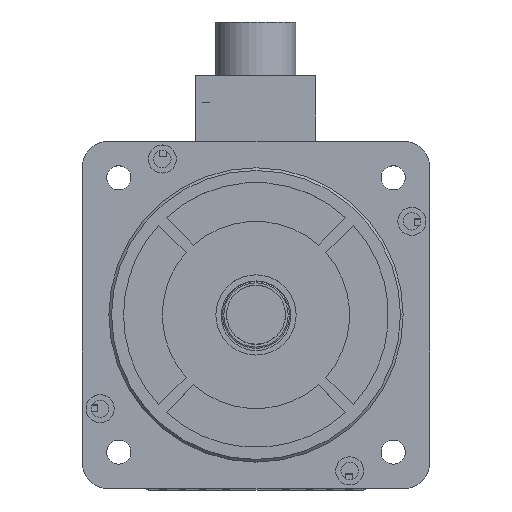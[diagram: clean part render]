
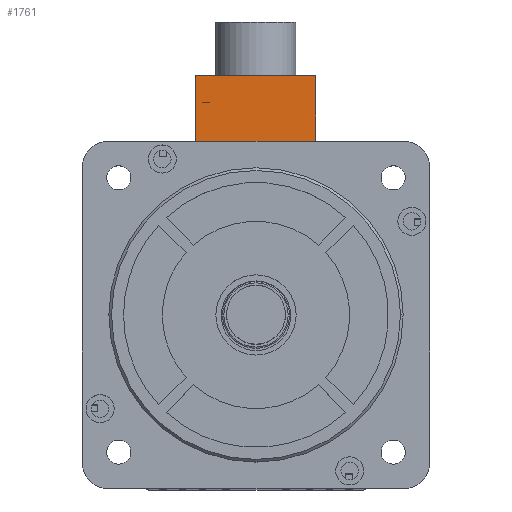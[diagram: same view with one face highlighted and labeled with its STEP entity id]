
A CAD part, top view. The second image highlights one B-rep face of the part: STEP entity #1761.
In plain terms, the highlighted planar face has unit normal (0, 0, 1) as drawn and (0, -1, 0) by its records, which use the part's own axes.
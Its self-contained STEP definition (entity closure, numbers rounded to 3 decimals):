
#702 = LINE ( 'NONE', #14004, #22727 ) ;
#1761 = ADVANCED_FACE ( 'NONE', ( #19603 ), #12502, .T. ) ;
#2332 = CARTESIAN_POINT ( 'NONE',  ( 0., 0., 0. ) ) ;
#3019 = VERTEX_POINT ( 'NONE', #20811 ) ;
#3467 = EDGE_CURVE ( 'NONE', #11822, #18891, #23481, .T. ) ;
#3577 = DIRECTION ( 'NONE',  ( 0., 0., 1. ) ) ;
#3975 = DIRECTION ( 'NONE',  ( 0., 0., -1. ) ) ;
#5056 = EDGE_CURVE ( 'NONE', #3019, #11336, #702, .T. ) ;
#5241 = CARTESIAN_POINT ( 'NONE',  ( 45., 0., -25. ) ) ;
#5478 = EDGE_CURVE ( 'NONE', #11336, #18891, #13134, .T. ) ;
#5660 = LINE ( 'NONE', #15861, #21268 ) ;
#6099 = CARTESIAN_POINT ( 'NONE',  ( 45., 0., 0. ) ) ;
#6176 = DIRECTION ( 'NONE',  ( 0., -1., 0. ) ) ;
#7909 = AXIS2_PLACEMENT_3D ( 'NONE', #10346, #6176, #3975 ) ;
#10346 = CARTESIAN_POINT ( 'NONE',  ( 0., 0., -25. ) ) ;
#11336 = VERTEX_POINT ( 'NONE', #11378 ) ;
#11378 = CARTESIAN_POINT ( 'NONE',  ( 0., 0., 0. ) ) ;
#11822 = VERTEX_POINT ( 'NONE', #5241 ) ;
#12202 = DIRECTION ( 'NONE',  ( 0., 0., 1. ) ) ;
#12502 = PLANE ( 'NONE',  #7909 ) ;
#12798 = ORIENTED_EDGE ( 'NONE', *, *, #5478, .F. ) ;
#13134 = LINE ( 'NONE', #2332, #17920 ) ;
#14004 = CARTESIAN_POINT ( 'NONE',  ( 0., 0., -25. ) ) ;
#15580 = EDGE_CURVE ( 'NONE', #3019, #11822, #5660, .T. ) ;
#15861 = CARTESIAN_POINT ( 'NONE',  ( 0., 0., -25. ) ) ;
#16004 = ORIENTED_EDGE ( 'NONE', *, *, #15580, .T. ) ;
#17759 = ORIENTED_EDGE ( 'NONE', *, *, #5056, .F. ) ;
#17920 = VECTOR ( 'NONE', #24977, 1000. ) ;
#17966 = DIRECTION ( 'NONE',  ( 1., 0., 0. ) ) ;
#18891 = VERTEX_POINT ( 'NONE', #6099 ) ;
#19603 = FACE_OUTER_BOUND ( 'NONE', #21524, .T. ) ;
#20811 = CARTESIAN_POINT ( 'NONE',  ( 0., 0., -25. ) ) ;
#21268 = VECTOR ( 'NONE', #17966, 1000. ) ;
#21524 = EDGE_LOOP ( 'NONE', ( #12798, #17759, #16004, #25485 ) ) ;
#22727 = VECTOR ( 'NONE', #3577, 1000. ) ;
#23481 = LINE ( 'NONE', #24413, #24113 ) ;
#24113 = VECTOR ( 'NONE', #12202, 1000. ) ;
#24413 = CARTESIAN_POINT ( 'NONE',  ( 45., 0., -25. ) ) ;
#24977 = DIRECTION ( 'NONE',  ( 1., 0., 0. ) ) ;
#25485 = ORIENTED_EDGE ( 'NONE', *, *, #3467, .T. ) ;
